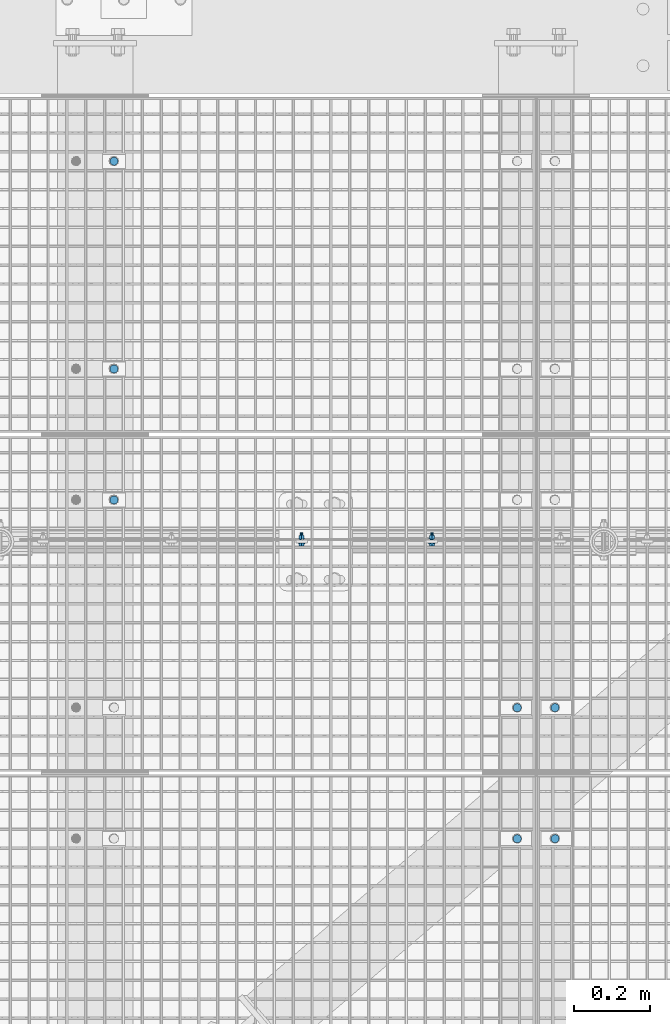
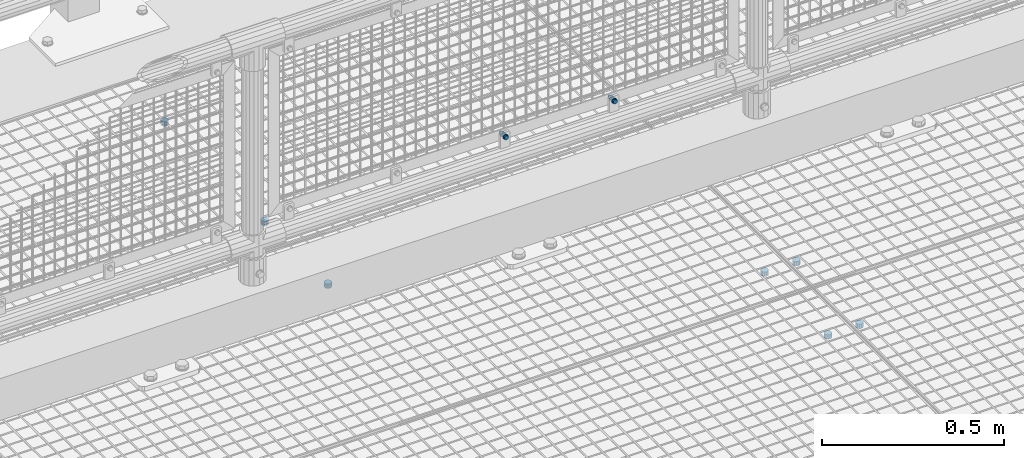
# One storey, part 80 of 1530: 9 mechanical fasteners.
"""IFC2X3 building model written with IfcOpenShell, lengths in millimetres."""

from ifc_helpers import new_model, si_unit, frame, origin_with_axes, place, context, subcontext, project, spatial, faceted_brep, source, transform, mapped, material, type_object, element, save


model = new_model("IFC2X3")

# Units and contexts
model_context = context("Model", 3, precision=1e-05, world=origin_with_axes())
body_context = subcontext(model_context, "Body", "Model", "MODEL_VIEW")
ifc_project = project(units=[si_unit("LENGTHUNIT", "METRE", prefix="MILLI"), si_unit("AREAUNIT", "SQUARE_METRE"), si_unit("VOLUMEUNIT", "CUBIC_METRE"), si_unit("MASSUNIT", "GRAM", prefix="KILO"), si_unit("TIMEUNIT", "SECOND"), si_unit("PLANEANGLEUNIT", "RADIAN"), si_unit("SOLIDANGLEUNIT", "STERADIAN"), si_unit("THERMODYNAMICTEMPERATUREUNIT", "DEGREE_CELSIUS"), si_unit("LUMINOUSINTENSITYUNIT", "LUMEN")], contexts=[model_context])

# Site, building, storey
site_placement = place(None, origin_with_axes())
site = spatial("IfcSite", under=ifc_project, at=site_placement, Name="Brattvåg", CompositionType="ELEMENT")
building_placement = place(site_placement, origin_with_axes())
building = spatial("IfcBuilding", under=site, at=building_placement, Name="Undefined", CompositionType="ELEMENT")
storey_placement = place(building_placement, origin_with_axes())
storey = spatial("IfcBuildingStorey", under=building, at=storey_placement, Name="Undefined", CompositionType="ELEMENT", Elevation=0.0)

# Mechanical fasteners
ifc_material = material(Name="8")
mechanical_fastener_type = type_object("IfcMechanicalFastenerType", Name="Bolt assembly")
shared_shape_1 = source(origin_with_axes(), body_context, "Body", "Brep", [
    faceted_brep([(11.0, -4.99999999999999, 0.0), (9.52627944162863, -4.99999999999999, 5.50000000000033), (5.49999999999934, -4.99999999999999, 9.5262794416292), (-1.13996957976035e-12, -4.99999999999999, 11.0), (-5.50000000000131, -4.99999999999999, 9.52627944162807), (-9.52627944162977, -4.99999999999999, 5.49999999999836), (-11.0, -4.99999999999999, -2.27993915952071e-12), (-9.5262794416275, -4.99999999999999, -5.5000000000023), (-5.49999999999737, -4.99999999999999, -9.52627944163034), (3.40769628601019e-12, -4.99999999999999, -11.0), (5.50000000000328, -4.99999999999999, -9.52627944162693), (9.52627944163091, -4.99999999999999, -5.49999999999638), (9.52627944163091, 10.1, -5.49999999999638), (5.50000000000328, 10.1, -9.52627944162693), (3.40769628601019e-12, 10.1, -11.0), (-5.49999999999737, 10.1, -9.52627944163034), (-9.5262794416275, 10.1, -5.5000000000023), (-11.0, 10.1, -2.27993915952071e-12), (-9.52627944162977, 10.1, 5.49999999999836), (-5.50000000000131, 10.1, 9.52627944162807), (-1.13996957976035e-12, 10.1, 11.0), (5.49999999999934, 10.1, 9.5262794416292), (9.52627944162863, 10.1, 5.50000000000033), (11.0, 10.1, 0.0)], [[[0, 1, 2, 3, 4, 5, 6, 7, 8, 9, 10, 11]], [[12, 13, 14, 15, 16, 17, 18, 19, 20, 21, 22, 23]], [[0, 23, 22, 1]], [[1, 22, 21, 2]], [[2, 21, 20, 3]], [[3, 20, 19, 4]], [[4, 19, 18, 5]], [[5, 18, 17, 6]], [[6, 17, 16, 7]], [[7, 16, 15, 8]], [[8, 15, 14, 9]], [[9, 14, 13, 10]], [[10, 13, 12, 11]], [[11, 12, 23, 0]]]),
])
for number, where, z_axis, x_axis, name in (
    (1, (5292.00477935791, 7224.98931152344, -35.0), (0.0, 1.0, 0.0), (1.0, 0.0, 0.0), "Bolt assembly"),
    (2, (5292.00477935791, 6877.99411010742, -35.0), (0.0, 1.0, 0.0), (1.0, 0.0, 0.0), "Bolt assembly"),
    (3, (4124.01456069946, 8671.99565124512, -35.0), (0.0, -1.0, 0.0), (-1.0, 1.99999855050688e-09, 0.0), "Bolt assembly"),
    (4, (4124.01192543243, 8121.99, -35.0), (0.0, -1.0, 0.0), (-1.0, 1.99999855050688e-09, 0.0), "Bolt assembly"),
    (5, (5192.01487731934, 7224.9904864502, -35.0), (0.0, -1.0, 0.0), (-1.0, 1.99999855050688e-09, 0.0), "Bolt assembly"),
    (6, (4124.01456069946, 7774.99565124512, -35.0), (0.0, -1.0, 0.0), (-1.0, 1.99999855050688e-09, 0.0), "Bolt assembly"),
    (7, (5192.01487731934, 6877.99411010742, -35.0), (0.0, -1.0, 0.0), (-1.0, 1.99999855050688e-09, 0.0), "Bolt assembly"),
):
    element("IfcMechanicalFastener", number, at=place(storey_placement, frame(where, z_axis=z_axis, x_axis=x_axis)), inside=storey, type_object=mechanical_fastener_type, material=ifc_material, Name=name, NominalDiameter=20.0, NominalLength=15.0, context=body_context, shape_type="MappedRepresentation", body=[
        mapped(shared_shape_1, transform((0.0, 0.0, 0.0))),
    ])
shared_shape_2 = source(origin_with_axes(), body_context, "Body", "Brep", [
    faceted_brep([(7.50555349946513, -6.899000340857, 0.0), (3.75277674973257, -6.899000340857, 6.5), (-3.75277674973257, -6.899000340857, 6.5), (-7.50555349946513, -6.899000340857, 9.19165206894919e-16), (-3.75277674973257, -6.899000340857, -6.5), (3.75277674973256, -6.899000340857, -6.5), (3.75277674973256, -1.59900015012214, -6.5), (-3.75277674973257, -1.59900015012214, -6.5), (-7.50555349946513, -1.59900015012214, 9.19165206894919e-16), (-3.75277674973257, -1.59900015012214, 6.5), (3.75277674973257, -1.59900015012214, 6.5), (7.50555349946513, -1.59900015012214, 0.0), (4.0, -1.59900015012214, 0.0), (3.46410161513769, -1.59900015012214, 2.00000000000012), (1.99999999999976, -1.59900015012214, 3.46410161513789), (-4.14534392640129e-13, -1.59900015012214, 4.0), (-2.00000000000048, -1.59900015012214, 3.46410161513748), (-3.4641016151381, -1.59900015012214, 1.9999999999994), (-4.0, -1.59900015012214, -8.29068785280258e-13), (-3.46410161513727, -1.59900015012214, -2.00000000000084), (-1.99999999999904, -1.59900015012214, -3.46410161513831), (1.23916228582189e-12, -1.59900015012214, -4.0), (2.00000000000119, -1.59900015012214, -3.46410161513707), (3.46410161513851, -1.59900015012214, -1.99999999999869), (3.46410161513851, 28.4009998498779, -1.99999999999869), (2.00000000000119, 28.4009998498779, -3.46410161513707), (1.23916228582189e-12, 28.4009998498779, -4.0), (-1.99999999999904, 28.4009998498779, -3.46410161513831), (-3.46410161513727, 28.4009998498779, -2.00000000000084), (-4.0, 28.4009998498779, -8.29068785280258e-13), (-3.4641016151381, 28.4009998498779, 1.9999999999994), (-2.00000000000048, 28.4009998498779, 3.46410161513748), (-4.14534392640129e-13, 28.4009998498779, 4.0), (1.99999999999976, 28.4009998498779, 3.46410161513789), (3.46410161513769, 28.4009998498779, 2.00000000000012), (4.0, 28.4009998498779, 0.0), (8.5, -1.59900015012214, 0.0), (7.36121593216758, -1.59900015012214, 4.25000000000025), (4.24999999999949, -1.59900015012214, 7.36121593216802), (-8.80885584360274e-13, -1.59900015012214, 8.5), (-4.25000000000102, -1.59900015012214, 7.36121593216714), (-7.36121593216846, -1.59900015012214, 4.24999999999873), (-8.5, -1.59900015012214, -1.76177116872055e-12), (-7.3612159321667, -1.59900015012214, -4.25000000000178), (-4.24999999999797, -1.59900015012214, -7.3612159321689), (2.63321985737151e-12, -1.59900015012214, -8.5), (4.25000000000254, -1.59900015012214, -7.36121593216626), (7.36121593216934, -1.59900015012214, -4.24999999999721), (7.36121593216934, 0.000999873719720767, -4.24999999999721), (4.25000000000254, 0.000999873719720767, -7.36121593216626), (2.63321985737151e-12, 0.000999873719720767, -8.5), (-4.24999999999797, 0.000999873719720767, -7.3612159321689), (-7.3612159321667, 0.000999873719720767, -4.25000000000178), (-8.5, 0.000999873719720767, -1.76177116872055e-12), (-7.36121593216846, 0.000999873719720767, 4.24999999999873), (-4.25000000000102, 0.000999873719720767, 7.36121593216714), (-8.80885584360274e-13, 0.000999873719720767, 8.5), (4.24999999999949, 0.000999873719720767, 7.36121593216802), (7.36121593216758, 0.000999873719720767, 4.25000000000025), (8.5, 0.000999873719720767, 0.0), (8.5, 11.5035404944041, 0.0), (7.36121593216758, 11.5035404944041, 4.25000000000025), (4.24999999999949, 11.5035404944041, 7.36121593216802), (-8.80885584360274e-13, 11.5035404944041, 8.5), (-4.25000000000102, 11.5035404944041, 7.36121593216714), (-7.36121593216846, 11.5035404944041, 4.24999999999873), (-8.5, 11.5035404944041, -1.76177116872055e-12), (-7.3612159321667, 11.5035404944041, -4.25000000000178), (-4.24999999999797, 11.5035404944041, -7.3612159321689), (2.63321985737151e-12, 11.5035404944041, -8.5), (4.25000000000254, 11.5035404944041, -7.36121593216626), (7.36121593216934, 11.5035404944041, -4.24999999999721), (7.36121593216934, 13.1035405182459, -4.24999999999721), (4.25000000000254, 13.1035405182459, -7.36121593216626), (2.63321985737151e-12, 13.1035405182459, -8.5), (-4.24999999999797, 13.1035405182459, -7.3612159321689), (-7.3612159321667, 13.1035405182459, -4.25000000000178), (-8.5, 13.1035405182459, -1.76177116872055e-12), (-7.36121593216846, 13.1035405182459, 4.24999999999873), (-4.25000000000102, 13.1035405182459, 7.36121593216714), (-8.80885584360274e-13, 13.1035405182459, 8.5), (4.24999999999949, 13.1035405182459, 7.36121593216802), (7.36121593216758, 13.1035405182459, 4.25000000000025), (8.5, 13.1035405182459, 0.0), (7.50555349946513, 13.1035405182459, 0.0), (3.75277674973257, 13.1035405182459, 6.5), (-3.75277674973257, 13.1035405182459, 6.5), (-7.50555349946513, 13.1035405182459, 9.19165206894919e-16), (-3.75277674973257, 13.1035405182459, -6.5), (3.75277674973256, 13.1035405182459, -6.5), (3.75277674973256, 19.9035407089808, -6.5), (-3.75277674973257, 19.9035407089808, -6.5), (-7.50555349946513, 19.9035407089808, 9.19165206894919e-16), (-3.75277674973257, 19.9035407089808, 6.5), (3.75277674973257, 19.9035407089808, 6.5), (7.50555349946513, 19.9035407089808, 0.0)], [[[0, 1, 2, 3, 4, 5]], [[6, 7, 8, 9, 10, 11]], [[0, 11, 10, 1]], [[1, 10, 9, 2]], [[2, 9, 8, 3]], [[3, 8, 7, 4]], [[4, 7, 6, 5]], [[5, 6, 11, 0]], [[12, 13, 14, 15, 16, 17, 18, 19, 20, 21, 22, 23]], [[24, 25, 26, 27, 28, 29, 30, 31, 32, 33, 34, 35]], [[12, 35, 34, 13]], [[13, 34, 33, 14]], [[14, 33, 32, 15]], [[15, 32, 31, 16]], [[16, 31, 30, 17]], [[17, 30, 29, 18]], [[18, 29, 28, 19]], [[19, 28, 27, 20]], [[20, 27, 26, 21]], [[21, 26, 25, 22]], [[22, 25, 24, 23]], [[23, 24, 35, 12]], [[36, 37, 38, 39, 40, 41, 42, 43, 44, 45, 46, 47]], [[48, 49, 50, 51, 52, 53, 54, 55, 56, 57, 58, 59]], [[36, 59, 58, 37]], [[37, 58, 57, 38]], [[38, 57, 56, 39]], [[39, 56, 55, 40]], [[40, 55, 54, 41]], [[41, 54, 53, 42]], [[42, 53, 52, 43]], [[43, 52, 51, 44]], [[44, 51, 50, 45]], [[45, 50, 49, 46]], [[46, 49, 48, 47]], [[47, 48, 59, 36]], [[60, 61, 62, 63, 64, 65, 66, 67, 68, 69, 70, 71]], [[72, 73, 74, 75, 76, 77, 78, 79, 80, 81, 82, 83]], [[60, 83, 82, 61]], [[61, 82, 81, 62]], [[62, 81, 80, 63]], [[63, 80, 79, 64]], [[64, 79, 78, 65]], [[65, 78, 77, 66]], [[66, 77, 76, 67]], [[67, 76, 75, 68]], [[68, 75, 74, 69]], [[69, 74, 73, 70]], [[70, 73, 72, 71]], [[71, 72, 83, 60]], [[84, 85, 86, 87, 88, 89]], [[90, 91, 92, 93, 94, 95]], [[84, 95, 94, 85]], [[85, 94, 93, 86]], [[86, 93, 92, 87]], [[87, 92, 91, 88]], [[88, 91, 90, 89]], [[89, 90, 95, 84]]]),
    faceted_brep([(5.0, 0.100999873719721, 0.0), (4.33012701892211, 0.100999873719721, 2.50000000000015), (2.4999999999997, 0.100999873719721, 4.33012701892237), (-5.18167990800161e-13, 0.100999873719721, 5.0), (-2.5000000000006, 0.100999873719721, 4.33012701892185), (-4.33012701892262, 0.100999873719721, 2.49999999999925), (-5.0, 0.100999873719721, -1.03633598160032e-12), (-4.33012701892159, 0.100999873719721, -2.50000000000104), (-2.49999999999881, 0.100999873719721, -4.33012701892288), (1.54895285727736e-12, 0.100999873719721, -5.0), (2.50000000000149, 0.100999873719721, -4.33012701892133), (4.33012701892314, 0.100999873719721, -2.49999999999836), (4.33012701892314, 8.10099988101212, -2.49999999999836), (2.50000000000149, 8.10099988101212, -4.33012701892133), (1.54895285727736e-12, 8.10099988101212, -5.0), (-2.49999999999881, 8.10099988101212, -4.33012701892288), (-4.33012701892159, 8.10099988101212, -2.50000000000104), (-5.0, 8.10099988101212, -1.03633598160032e-12), (-4.33012701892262, 8.10099988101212, 2.49999999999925), (-2.5000000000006, 8.10099988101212, 4.33012701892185), (-5.18167990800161e-13, 8.10099988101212, 5.0), (2.4999999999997, 8.10099988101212, 4.33012701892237), (4.33012701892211, 8.10099988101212, 2.50000000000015), (5.0, 8.10099988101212, 0.0), (5.0, 8.40354049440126, 0.0), (4.33012701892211, 8.40354049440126, 2.50000000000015), (2.4999999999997, 8.40354049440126, 4.33012701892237), (-5.18167990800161e-13, 8.40354049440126, 5.0), (-2.5000000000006, 8.40354049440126, 4.33012701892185), (-4.33012701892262, 8.40354049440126, 2.49999999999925), (-5.0, 8.40354049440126, -1.03633598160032e-12), (-4.33012701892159, 8.40354049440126, -2.50000000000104), (-2.49999999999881, 8.40354049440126, -4.33012701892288), (1.54895285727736e-12, 8.40354049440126, -5.0), (2.50000000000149, 8.40354049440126, -4.33012701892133), (4.33012701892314, 8.40354049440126, -2.49999999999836), (4.33012701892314, 11.5035404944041, -2.49999999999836), (2.50000000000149, 11.5035404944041, -4.33012701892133), (1.54895285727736e-12, 11.5035404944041, -5.0), (-2.49999999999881, 11.5035404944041, -4.33012701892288), (-4.33012701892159, 11.5035404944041, -2.50000000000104), (-5.0, 11.5035404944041, -1.03633598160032e-12), (-4.33012701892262, 11.5035404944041, 2.49999999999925), (-2.5000000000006, 11.5035404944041, 4.33012701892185), (-5.18167990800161e-13, 11.5035404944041, 5.0), (2.4999999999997, 11.5035404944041, 4.33012701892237), (4.33012701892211, 11.5035404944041, 2.50000000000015), (5.0, 11.5035404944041, 0.0)], [[[0, 1, 2, 3, 4, 5, 6, 7, 8, 9, 10, 11]], [[12, 13, 14, 15, 16, 17, 18, 19, 20, 21, 22, 23]], [[0, 23, 22, 1]], [[1, 22, 21, 2]], [[2, 21, 20, 3]], [[3, 20, 19, 4]], [[4, 19, 18, 5]], [[5, 18, 17, 6]], [[6, 17, 16, 7]], [[7, 16, 15, 8]], [[8, 15, 14, 9]], [[9, 14, 13, 10]], [[10, 13, 12, 11]], [[11, 12, 23, 0]], [[24, 25, 26, 27, 28, 29, 30, 31, 32, 33, 34, 35]], [[36, 37, 38, 39, 40, 41, 42, 43, 44, 45, 46, 47]], [[24, 47, 46, 25]], [[25, 46, 45, 26]], [[26, 45, 44, 27]], [[27, 44, 43, 28]], [[28, 43, 42, 29]], [[29, 42, 41, 30]], [[30, 41, 40, 31]], [[31, 40, 39, 32]], [[32, 39, 38, 33]], [[33, 38, 37, 34]], [[34, 37, 36, 35]], [[35, 36, 47, 24]]]),
])
mechanical_fastener_1_placement = place(storey_placement, frame((4620.85007476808, 7660.49843978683, 352.299672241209), z_axis=(-1.0, 1.99999855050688e-09, 0.0), x_axis=(0.0, 0.0, 1.0)))
element("IfcMechanicalFastener", 8, at=mechanical_fastener_1_placement, inside=storey, type_object=mechanical_fastener_type, material=ifc_material, Name="Bolt assembly", NominalDiameter=8.0, NominalLength=30.0, context=body_context, shape_type="MappedRepresentation", body=[
    mapped(shared_shape_2, transform((0.0, 0.0, 0.0))),
])
shared_shape_3 = source(origin_with_axes(), body_context, "Body", "Brep", [
    faceted_brep([(7.50555349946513, -6.899000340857, 0.0), (3.75277674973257, -6.899000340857, 6.5), (-3.75277674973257, -6.899000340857, 6.5), (-7.50555349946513, -6.899000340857, 9.19165206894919e-16), (-3.75277674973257, -6.899000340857, -6.5), (3.75277674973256, -6.899000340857, -6.5), (3.75277674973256, -1.59900015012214, -6.5), (-3.75277674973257, -1.59900015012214, -6.5), (-7.50555349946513, -1.59900015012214, 9.19165206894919e-16), (-3.75277674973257, -1.59900015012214, 6.5), (3.75277674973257, -1.59900015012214, 6.5), (7.50555349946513, -1.59900015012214, 0.0), (4.0, -1.59900015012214, 0.0), (3.46410161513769, -1.59900015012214, 2.00000000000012), (1.99999999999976, -1.59900015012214, 3.46410161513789), (-4.14534392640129e-13, -1.59900015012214, 4.0), (-2.00000000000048, -1.59900015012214, 3.46410161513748), (-3.4641016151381, -1.59900015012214, 1.9999999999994), (-4.0, -1.59900015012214, -8.29068785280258e-13), (-3.46410161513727, -1.59900015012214, -2.00000000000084), (-1.99999999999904, -1.59900015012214, -3.46410161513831), (1.23916228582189e-12, -1.59900015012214, -4.0), (2.00000000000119, -1.59900015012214, -3.46410161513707), (3.46410161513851, -1.59900015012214, -1.99999999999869), (3.46410161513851, 28.4009998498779, -1.99999999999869), (2.00000000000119, 28.4009998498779, -3.46410161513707), (1.23916228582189e-12, 28.4009998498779, -4.0), (-1.99999999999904, 28.4009998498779, -3.46410161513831), (-3.46410161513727, 28.4009998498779, -2.00000000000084), (-4.0, 28.4009998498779, -8.29068785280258e-13), (-3.4641016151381, 28.4009998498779, 1.9999999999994), (-2.00000000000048, 28.4009998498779, 3.46410161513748), (-4.14534392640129e-13, 28.4009998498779, 4.0), (1.99999999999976, 28.4009998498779, 3.46410161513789), (3.46410161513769, 28.4009998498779, 2.00000000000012), (4.0, 28.4009998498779, 0.0), (8.5, -1.59900015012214, 0.0), (7.36121593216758, -1.59900015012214, 4.25000000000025), (4.24999999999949, -1.59900015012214, 7.36121593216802), (-8.80885584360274e-13, -1.59900015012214, 8.5), (-4.25000000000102, -1.59900015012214, 7.36121593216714), (-7.36121593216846, -1.59900015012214, 4.24999999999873), (-8.5, -1.59900015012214, -1.76177116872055e-12), (-7.3612159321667, -1.59900015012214, -4.25000000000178), (-4.24999999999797, -1.59900015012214, -7.3612159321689), (2.63321985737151e-12, -1.59900015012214, -8.5), (4.25000000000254, -1.59900015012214, -7.36121593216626), (7.36121593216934, -1.59900015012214, -4.24999999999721), (7.36121593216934, 0.000999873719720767, -4.24999999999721), (4.25000000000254, 0.000999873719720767, -7.36121593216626), (2.63321985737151e-12, 0.000999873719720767, -8.5), (-4.24999999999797, 0.000999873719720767, -7.3612159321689), (-7.3612159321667, 0.000999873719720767, -4.25000000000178), (-8.5, 0.000999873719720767, -1.76177116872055e-12), (-7.36121593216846, 0.000999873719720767, 4.24999999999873), (-4.25000000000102, 0.000999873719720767, 7.36121593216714), (-8.80885584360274e-13, 0.000999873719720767, 8.5), (4.24999999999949, 0.000999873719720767, 7.36121593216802), (7.36121593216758, 0.000999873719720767, 4.25000000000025), (8.5, 0.000999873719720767, 0.0), (8.5, 11.5030995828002, 0.0), (7.36121593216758, 11.5030995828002, 4.25000000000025), (4.24999999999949, 11.5030995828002, 7.36121593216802), (-8.80885584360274e-13, 11.5030995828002, 8.5), (-4.25000000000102, 11.5030995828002, 7.36121593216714), (-7.36121593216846, 11.5030995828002, 4.24999999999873), (-8.5, 11.5030995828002, -1.76177116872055e-12), (-7.3612159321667, 11.5030995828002, -4.25000000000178), (-4.24999999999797, 11.5030995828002, -7.3612159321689), (2.63321985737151e-12, 11.5030995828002, -8.5), (4.25000000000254, 11.5030995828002, -7.36121593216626), (7.36121593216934, 11.5030995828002, -4.24999999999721), (7.36121593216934, 13.1030996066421, -4.24999999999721), (4.25000000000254, 13.1030996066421, -7.36121593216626), (2.63321985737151e-12, 13.1030996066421, -8.5), (-4.24999999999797, 13.1030996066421, -7.3612159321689), (-7.3612159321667, 13.1030996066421, -4.25000000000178), (-8.5, 13.1030996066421, -1.76177116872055e-12), (-7.36121593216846, 13.1030996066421, 4.24999999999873), (-4.25000000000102, 13.1030996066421, 7.36121593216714), (-8.80885584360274e-13, 13.1030996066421, 8.5), (4.24999999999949, 13.1030996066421, 7.36121593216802), (7.36121593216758, 13.1030996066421, 4.25000000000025), (8.5, 13.1030996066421, 0.0), (7.50555349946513, 13.1030996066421, 0.0), (3.75277674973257, 13.1030996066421, 6.5), (-3.75277674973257, 13.1030996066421, 6.5), (-7.50555349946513, 13.1030996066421, 9.19165206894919e-16), (-3.75277674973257, 13.1030996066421, -6.5), (3.75277674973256, 13.1030996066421, -6.5), (3.75277674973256, 19.9030997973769, -6.5), (-3.75277674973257, 19.9030997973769, -6.5), (-7.50555349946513, 19.9030997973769, 9.19165206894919e-16), (-3.75277674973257, 19.9030997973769, 6.5), (3.75277674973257, 19.9030997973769, 6.5), (7.50555349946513, 19.9030997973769, 0.0)], [[[0, 1, 2, 3, 4, 5]], [[6, 7, 8, 9, 10, 11]], [[0, 11, 10, 1]], [[1, 10, 9, 2]], [[2, 9, 8, 3]], [[3, 8, 7, 4]], [[4, 7, 6, 5]], [[5, 6, 11, 0]], [[12, 13, 14, 15, 16, 17, 18, 19, 20, 21, 22, 23]], [[24, 25, 26, 27, 28, 29, 30, 31, 32, 33, 34, 35]], [[12, 35, 34, 13]], [[13, 34, 33, 14]], [[14, 33, 32, 15]], [[15, 32, 31, 16]], [[16, 31, 30, 17]], [[17, 30, 29, 18]], [[18, 29, 28, 19]], [[19, 28, 27, 20]], [[20, 27, 26, 21]], [[21, 26, 25, 22]], [[22, 25, 24, 23]], [[23, 24, 35, 12]], [[36, 37, 38, 39, 40, 41, 42, 43, 44, 45, 46, 47]], [[48, 49, 50, 51, 52, 53, 54, 55, 56, 57, 58, 59]], [[36, 59, 58, 37]], [[37, 58, 57, 38]], [[38, 57, 56, 39]], [[39, 56, 55, 40]], [[40, 55, 54, 41]], [[41, 54, 53, 42]], [[42, 53, 52, 43]], [[43, 52, 51, 44]], [[44, 51, 50, 45]], [[45, 50, 49, 46]], [[46, 49, 48, 47]], [[47, 48, 59, 36]], [[60, 61, 62, 63, 64, 65, 66, 67, 68, 69, 70, 71]], [[72, 73, 74, 75, 76, 77, 78, 79, 80, 81, 82, 83]], [[60, 83, 82, 61]], [[61, 82, 81, 62]], [[62, 81, 80, 63]], [[63, 80, 79, 64]], [[64, 79, 78, 65]], [[65, 78, 77, 66]], [[66, 77, 76, 67]], [[67, 76, 75, 68]], [[68, 75, 74, 69]], [[69, 74, 73, 70]], [[70, 73, 72, 71]], [[71, 72, 83, 60]], [[84, 85, 86, 87, 88, 89]], [[90, 91, 92, 93, 94, 95]], [[84, 95, 94, 85]], [[85, 94, 93, 86]], [[86, 93, 92, 87]], [[87, 92, 91, 88]], [[88, 91, 90, 89]], [[89, 90, 95, 84]]]),
    faceted_brep([(5.0, 0.100999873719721, 0.0), (4.33012701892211, 0.100999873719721, 2.50000000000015), (2.4999999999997, 0.100999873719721, 4.33012701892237), (-5.18167990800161e-13, 0.100999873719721, 5.0), (-2.5000000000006, 0.100999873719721, 4.33012701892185), (-4.33012701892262, 0.100999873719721, 2.49999999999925), (-5.0, 0.100999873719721, -1.03633598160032e-12), (-4.33012701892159, 0.100999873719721, -2.50000000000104), (-2.49999999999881, 0.100999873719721, -4.33012701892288), (1.54895285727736e-12, 0.100999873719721, -5.0), (2.50000000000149, 0.100999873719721, -4.33012701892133), (4.33012701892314, 0.100999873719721, -2.49999999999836), (4.33012701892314, 8.10099988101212, -2.49999999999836), (2.50000000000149, 8.10099988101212, -4.33012701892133), (1.54895285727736e-12, 8.10099988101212, -5.0), (-2.49999999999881, 8.10099988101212, -4.33012701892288), (-4.33012701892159, 8.10099988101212, -2.50000000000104), (-5.0, 8.10099988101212, -1.03633598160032e-12), (-4.33012701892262, 8.10099988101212, 2.49999999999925), (-2.5000000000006, 8.10099988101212, 4.33012701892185), (-5.18167990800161e-13, 8.10099988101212, 5.0), (2.4999999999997, 8.10099988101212, 4.33012701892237), (4.33012701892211, 8.10099988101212, 2.50000000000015), (5.0, 8.10099988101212, 0.0), (5.0, 8.40309958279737, 0.0), (4.33012701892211, 8.40309958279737, 2.50000000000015), (2.4999999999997, 8.40309958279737, 4.33012701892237), (-5.18167990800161e-13, 8.40309958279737, 5.0), (-2.5000000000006, 8.40309958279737, 4.33012701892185), (-4.33012701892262, 8.40309958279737, 2.49999999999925), (-5.0, 8.40309958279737, -1.03633598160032e-12), (-4.33012701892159, 8.40309958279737, -2.50000000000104), (-2.49999999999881, 8.40309958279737, -4.33012701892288), (1.54895285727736e-12, 8.40309958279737, -5.0), (2.50000000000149, 8.40309958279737, -4.33012701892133), (4.33012701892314, 8.40309958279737, -2.49999999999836), (4.33012701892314, 11.5030995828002, -2.49999999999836), (2.50000000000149, 11.5030995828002, -4.33012701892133), (1.54895285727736e-12, 11.5030995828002, -5.0), (-2.49999999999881, 11.5030995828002, -4.33012701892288), (-4.33012701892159, 11.5030995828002, -2.50000000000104), (-5.0, 11.5030995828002, -1.03633598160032e-12), (-4.33012701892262, 11.5030995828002, 2.49999999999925), (-2.5000000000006, 11.5030995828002, 4.33012701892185), (-5.18167990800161e-13, 11.5030995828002, 5.0), (2.4999999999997, 11.5030995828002, 4.33012701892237), (4.33012701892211, 11.5030995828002, 2.50000000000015), (5.0, 11.5030995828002, 0.0)], [[[0, 1, 2, 3, 4, 5, 6, 7, 8, 9, 10, 11]], [[12, 13, 14, 15, 16, 17, 18, 19, 20, 21, 22, 23]], [[0, 23, 22, 1]], [[1, 22, 21, 2]], [[2, 21, 20, 3]], [[3, 20, 19, 4]], [[4, 19, 18, 5]], [[5, 18, 17, 6]], [[6, 17, 16, 7]], [[7, 16, 15, 8]], [[8, 15, 14, 9]], [[9, 14, 13, 10]], [[10, 13, 12, 11]], [[11, 12, 23, 0]], [[24, 25, 26, 27, 28, 29, 30, 31, 32, 33, 34, 35]], [[36, 37, 38, 39, 40, 41, 42, 43, 44, 45, 46, 47]], [[24, 47, 46, 25]], [[25, 46, 45, 26]], [[26, 45, 44, 27]], [[27, 44, 43, 28]], [[28, 43, 42, 29]], [[29, 42, 41, 30]], [[30, 41, 40, 31]], [[31, 40, 39, 32]], [[32, 39, 38, 33]], [[33, 38, 37, 34]], [[34, 37, 36, 35]], [[35, 36, 47, 24]]]),
])
mechanical_fastener_2_placement = place(storey_placement, frame((4965.8512954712, 7660.49843978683, 352.299672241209), z_axis=(-1.0, 1.99999855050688e-09, 0.0), x_axis=(0.0, 0.0, 1.0)))
element("IfcMechanicalFastener", 9, at=mechanical_fastener_2_placement, inside=storey, type_object=mechanical_fastener_type, material=ifc_material, Name="Bolt assembly", NominalDiameter=8.0, NominalLength=30.0, context=body_context, shape_type="MappedRepresentation", body=[
    mapped(shared_shape_3, transform((0.0, 0.0, 0.0))),
])

save(model, "model.ifc")
